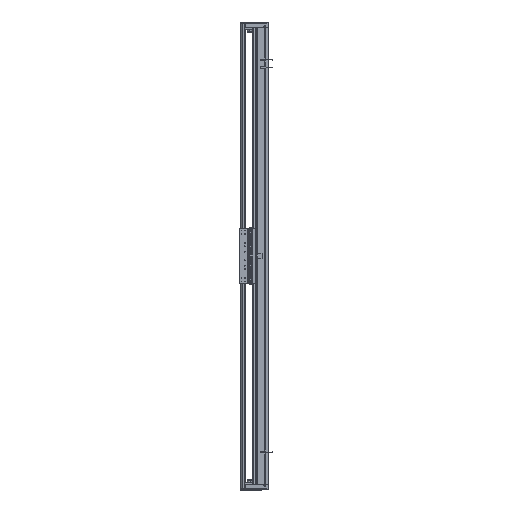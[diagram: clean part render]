
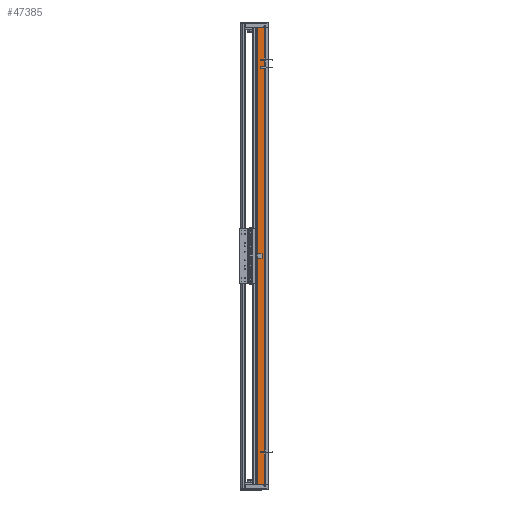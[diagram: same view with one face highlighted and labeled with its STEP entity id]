
A CAD part, left-side view. The second image highlights one B-rep face of the part: STEP entity #47385.
In plain terms, the highlighted planar face has unit normal (-1, 0, 0).
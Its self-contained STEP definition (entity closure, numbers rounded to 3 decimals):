
#9845 = CARTESIAN_POINT ( 'NONE',  ( -97.5, 14.45, 780. ) ) ;
#12685 = CARTESIAN_POINT ( 'NONE',  ( -97.5, 36.95, -780. ) ) ;
#19430 = VERTEX_POINT ( 'NONE', #42416 ) ;
#22437 = EDGE_CURVE ( 'NONE', #138729, #31084, #117191, .T. ) ;
#23512 = CARTESIAN_POINT ( 'NONE',  ( -97.5, 36.95, 780. ) ) ;
#24782 = VERTEX_POINT ( 'NONE', #130009 ) ;
#28102 = DIRECTION ( 'NONE',  ( 0., 0., -1. ) ) ;
#31084 = VERTEX_POINT ( 'NONE', #88821 ) ;
#32053 = ORIENTED_EDGE ( 'NONE', *, *, #143221, .F. ) ;
#38054 = ORIENTED_EDGE ( 'NONE', *, *, #22437, .T. ) ;
#39285 = FACE_OUTER_BOUND ( 'NONE', #131482, .T. ) ;
#40044 = DIRECTION ( 'NONE',  ( 0., 1., 0. ) ) ;
#42416 = CARTESIAN_POINT ( 'NONE',  ( -97.5, 14.45, 780. ) ) ;
#43453 = ORIENTED_EDGE ( 'NONE', *, *, #146149, .F. ) ;
#47385 = ADVANCED_FACE ( 'NONE', ( #39285 ), #134336, .F. ) ;
#59540 = CARTESIAN_POINT ( 'NONE',  ( -97.5, 36.95, -780. ) ) ;
#64225 = DIRECTION ( 'NONE',  ( 1., 0., 0. ) ) ;
#66860 = ORIENTED_EDGE ( 'NONE', *, *, #84914, .T. ) ;
#72126 = LINE ( 'NONE', #9845, #137694 ) ;
#84914 = EDGE_CURVE ( 'NONE', #24782, #138729, #147350, .T. ) ;
#85578 = VECTOR ( 'NONE', #142872, 1000. ) ;
#86899 = VECTOR ( 'NONE', #28102, 1000. ) ;
#88821 = CARTESIAN_POINT ( 'NONE',  ( -97.5, 14.45, -780. ) ) ;
#107190 = DIRECTION ( 'NONE',  ( 0., 0., -1. ) ) ;
#110951 = CARTESIAN_POINT ( 'NONE',  ( -97.5, 36.95, 780. ) ) ;
#112561 = VECTOR ( 'NONE', #116261, 1000. ) ;
#116261 = DIRECTION ( 'NONE',  ( 0., -1., 0. ) ) ;
#117191 = LINE ( 'NONE', #59540, #85578 ) ;
#130009 = CARTESIAN_POINT ( 'NONE',  ( -97.5, 36.95, 780. ) ) ;
#130836 = AXIS2_PLACEMENT_3D ( 'NONE', #110951, #64225, #40044 ) ;
#131482 = EDGE_LOOP ( 'NONE', ( #38054, #43453, #32053, #66860 ) ) ;
#134336 = PLANE ( 'NONE',  #130836 ) ;
#136399 = CARTESIAN_POINT ( 'NONE',  ( -97.5, 36.95, 780. ) ) ;
#137694 = VECTOR ( 'NONE', #107190, 1000. ) ;
#138729 = VERTEX_POINT ( 'NONE', #12685 ) ;
#142872 = DIRECTION ( 'NONE',  ( 0., -1., 0. ) ) ;
#143221 = EDGE_CURVE ( 'NONE', #24782, #19430, #152918, .T. ) ;
#146149 = EDGE_CURVE ( 'NONE', #19430, #31084, #72126, .T. ) ;
#147350 = LINE ( 'NONE', #136399, #86899 ) ;
#152918 = LINE ( 'NONE', #23512, #112561 ) ;
